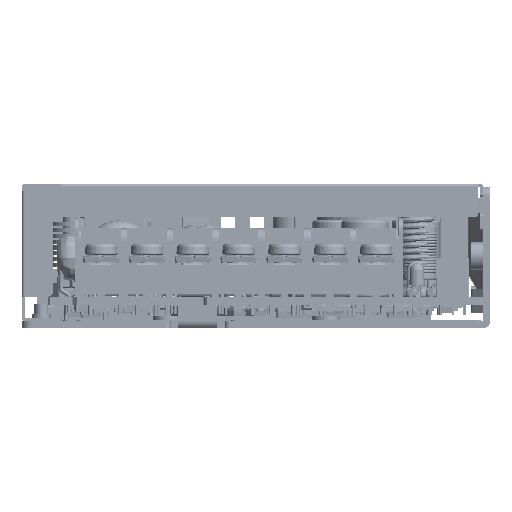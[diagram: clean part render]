
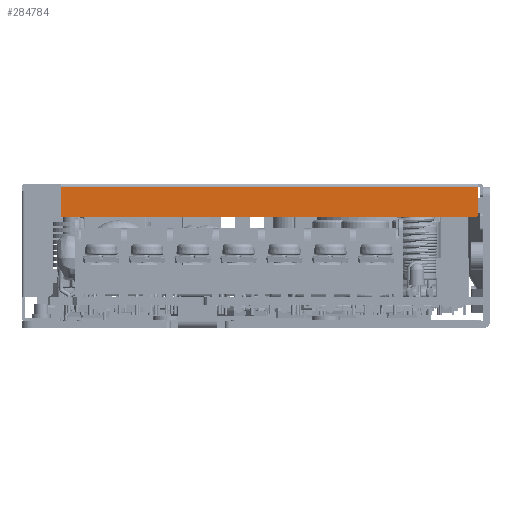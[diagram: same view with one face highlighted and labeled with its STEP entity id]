
A CAD part, left-side view. The second image highlights one B-rep face of the part: STEP entity #284784.
In plain terms, the highlighted planar face has unit normal (-1, 0, 0) as drawn and (0, -1, 0) by its records, which use the part's own axes.
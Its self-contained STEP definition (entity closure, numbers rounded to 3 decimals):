
#276867=CARTESIAN_POINT('',(-5.9,-52.1,39.25));
#276868=DIRECTION('',(0.,1.,0.));
#276869=DIRECTION('',(-1.,0.,0.));
#276870=AXIS2_PLACEMENT_3D('',#276867,#276868,#276869);
#276875=DIRECTION('',(1.,0.,0.));
#276876=VECTOR('',#276875,5.9);
#276877=CARTESIAN_POINT('',(-5.9,-52.1,39.75));
#276878=LINE('',#276877,#276876);
#276882=DIRECTION('',(-1.,0.,0.));
#276883=VECTOR('',#276882,5.9);
#276884=CARTESIAN_POINT('',(0.,-52.1,-46.75));
#276885=LINE('',#276884,#276883);
#276889=CARTESIAN_POINT('',(-5.9,-52.1,-46.25));
#276890=DIRECTION('',(0.,1.,0.));
#276891=DIRECTION('',(0.,0.,-1.));
#276892=AXIS2_PLACEMENT_3D('',#276889,#276890,#276891);
#276897=DIRECTION('',(0.,0.,1.));
#276898=VECTOR('',#276897,85.5);
#276899=CARTESIAN_POINT('',(-6.4,-52.1,-46.25));
#276900=LINE('',#276899,#276898);
#276991=DIRECTION('',(0.,0.,1.));
#276992=VECTOR('',#276991,86.5);
#276993=CARTESIAN_POINT('',(0.,-52.1,-46.75));
#276994=LINE('',#276993,#276992);
#281089=CARTESIAN_POINT('',(0.,-52.1,-46.75));
#281090=VERTEX_POINT('',#281089);
#281091=CARTESIAN_POINT('',(-5.9,-52.1,-46.75));
#281093=VERTEX_POINT('',#281091);
#281095=CARTESIAN_POINT('',(-6.4,-52.1,-46.25));
#281096=VERTEX_POINT('',#281095);
#281099=CARTESIAN_POINT('',(-6.4,-52.1,39.25));
#281100=CARTESIAN_POINT('',(-5.9,-52.1,39.75));
#281101=VERTEX_POINT('',#281099);
#281102=VERTEX_POINT('',#281100);
#281103=CARTESIAN_POINT('',(0.,-52.1,39.75));
#281104=VERTEX_POINT('',#281103);
#284767=CARTESIAN_POINT('',(0.6,-52.1,46.75));
#284768=DIRECTION('',(0.,-1.,0.));
#284769=DIRECTION('',(0.,0.,1.));
#284770=AXIS2_PLACEMENT_3D('',#284767,#284768,#284769);
#284771=PLANE('',#284770);
#284773=ORIENTED_EDGE('',*,*,#284772,.T.);
#284775=ORIENTED_EDGE('',*,*,#284774,.T.);
#284777=ORIENTED_EDGE('',*,*,#284776,.F.);
#284778=ORIENTED_EDGE('',*,*,#284744,.T.);
#284779=ORIENTED_EDGE('',*,*,#284757,.T.);
#284781=ORIENTED_EDGE('',*,*,#284780,.T.);
#284782=EDGE_LOOP('',(#284773,#284775,#284777,#284778,#284779,#284781));
#284783=FACE_OUTER_BOUND('',#284782,.F.);
#284784=ADVANCED_FACE('',(#284783),#284771,.T.);
#276871=CIRCLE('',#276870,0.5);
#276893=CIRCLE('',#276892,0.5);
#284744=EDGE_CURVE('',#281090,#281093,#276885,.T.);
#284757=EDGE_CURVE('',#281093,#281096,#276893,.T.);
#284772=EDGE_CURVE('',#281101,#281102,#276871,.T.);
#284774=EDGE_CURVE('',#281102,#281104,#276878,.T.);
#284776=EDGE_CURVE('',#281090,#281104,#276994,.T.);
#284780=EDGE_CURVE('',#281096,#281101,#276900,.T.);
